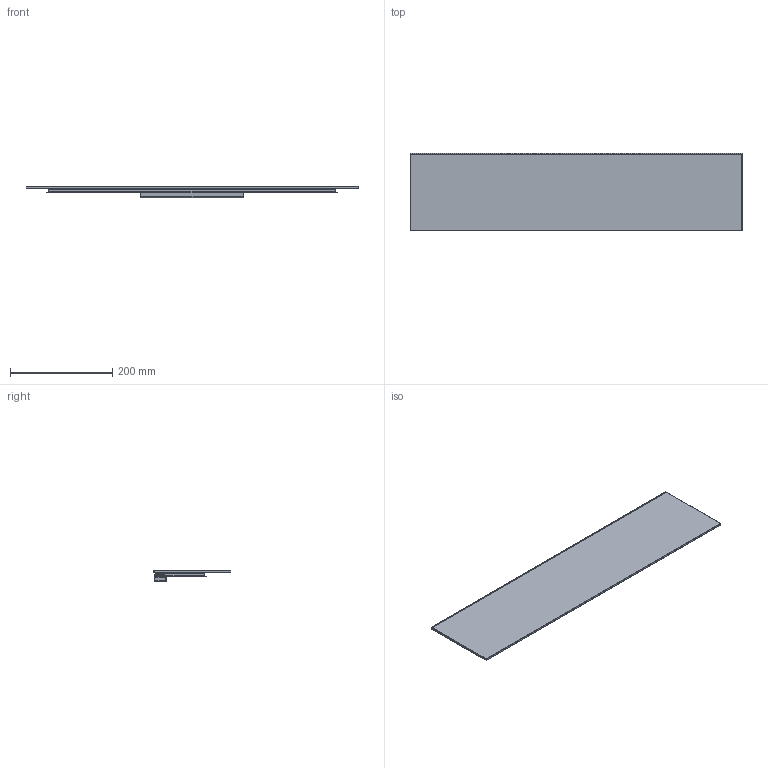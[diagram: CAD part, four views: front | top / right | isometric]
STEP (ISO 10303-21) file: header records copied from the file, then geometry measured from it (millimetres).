
FILE_DESCRIPTION(/* description */ (''),/* implementation_level */ '2;1');
FILE_NAME(/* name */ 'C:\Users\A.Cavazzi\Desktop\1A085 - REFLEX.stp',/* time_stamp */ '2022-05-17T10:33:44+02:00',/* author */ ('a.cavazzi'),/* organization */ (''),/* preprocessor_version */ 'ST-DEVELOPER v18.1',/* originating_system */ 'Autodesk Inventor 2021',/* authorisation */ '');
FILE_SCHEMA (('AUTOMOTIVE_DESIGN { 1 0 10303 214 3 1 1 }'));
Length unit declared in the file: millimetre
Products named in the file (1): Parte2
Bounding box: 650 x 152 x 22.3 mm (x, y, z)
Volume: 648986.9 mm3; surface area: 770667.3 mm2
Topology: 11 solids, 11 shells, 319 faces, 785 edges, 494 vertices
Faces by surface type: plane 209, cylinder 102, bspline 8
Full cylindrical faces by diameter (mm): 3 x4, 3.25 x2, 4 x2, 4.25 x2
Entity records: 9930 total; most frequent: CARTESIAN_POINT 1827, DIRECTION 1611, ORIENTED_EDGE 1570, EDGE_CURVE 785, LINE 567, VECTOR 567, AXIS2_PLACEMENT_3D 522, VERTEX_POINT 494
